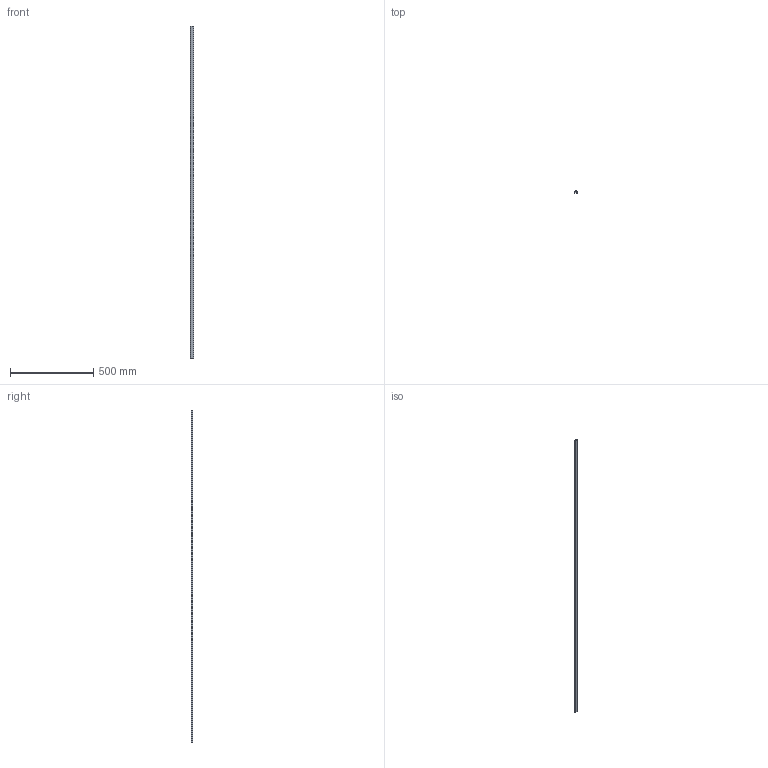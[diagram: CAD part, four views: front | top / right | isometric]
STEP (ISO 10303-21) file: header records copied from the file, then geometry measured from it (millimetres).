
FILE_DESCRIPTION((''),'2;1');
FILE_NAME('GIL0010','2002-12-27T',('Lipro doo'),('Lipro d.o.o.'),'PRO/ENGINEER BY PARAMETRIC TECHNOLOGY CORPORATION, 2001150','PRO/ENGINEER BY PARAMETRIC TECHNOLOGY CORPORATION, 2001150','');
FILE_SCHEMA(('CONFIG_CONTROL_DESIGN'));
Length unit declared in the file: millimetre
Products named in the file (1): GIL0010
Bounding box: 19.5 x 11 x 2000 mm (x, y, z)
Volume: 306520 mm3; surface area: 116465.3 mm2
Topology: 1 solids, 1 shells, 15 faces, 39 edges, 26 vertices
Faces by surface type: plane 15
Entity records: 491 total; most frequent: CARTESIAN_POINT 80, ORIENTED_EDGE 78, DIRECTION 69, VECTOR 39, LINE 39, EDGE_CURVE 39, VERTEX_POINT 26, AXIS2_PLACEMENT_3D 15
